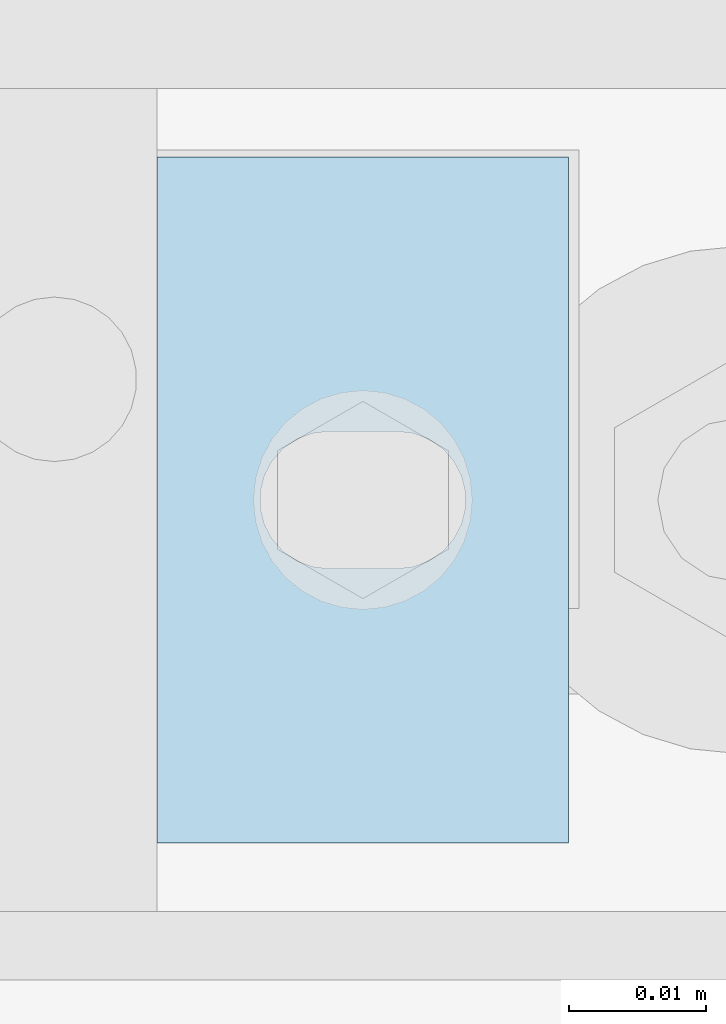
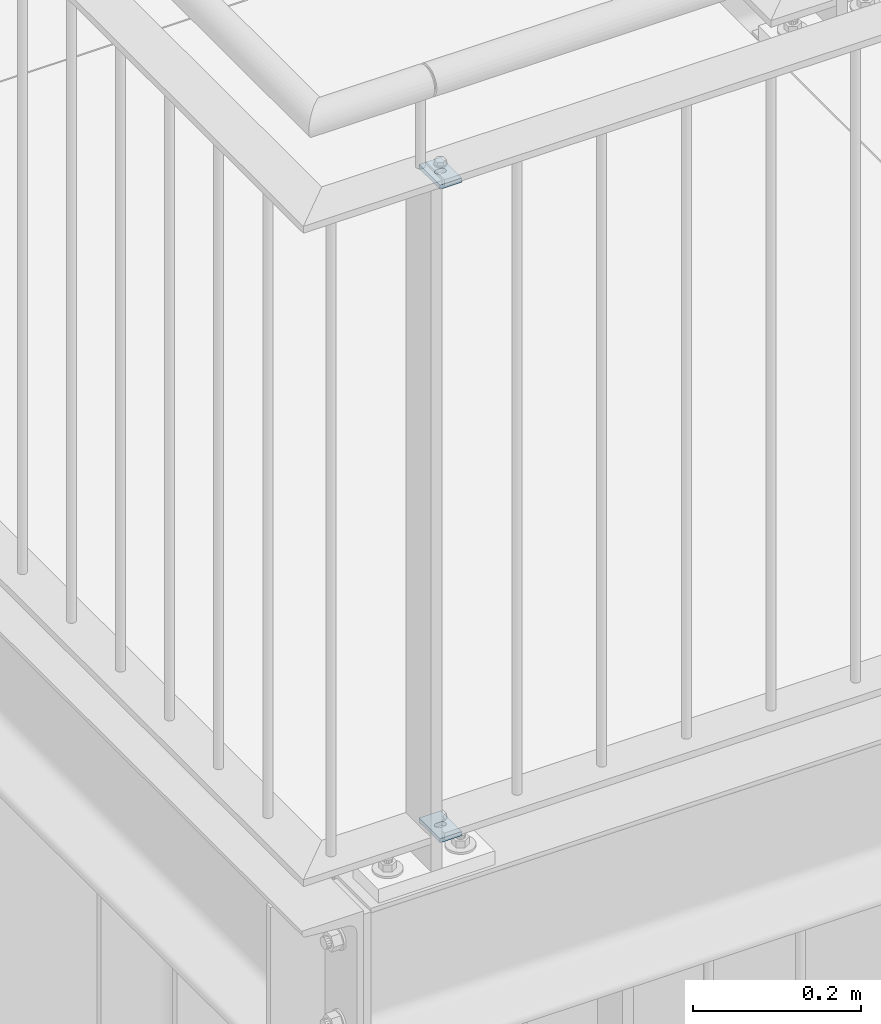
# One storey, part 218 of 821: 2 plates, 2 openings.
"""IFC2X3 building model written with IfcOpenShell, lengths in millimetres."""

from ifc_helpers import new_model, entity, si_unit, converted_unit, point, frame, frame_2d, origin, origin_with_axes, place, context, project, spatial, polyline, circle_curve, line_curve, trimmed, segment, composite_curve, outline, extrude, material, layer, layer_set, element, save


model = new_model("IFC2X3")

# Units and contexts
model_context = context("Model", 3, precision=1e-09, world=origin_with_axes())
ifc_project = project(units=[si_unit("LENGTHUNIT", "METRE", prefix="MILLI"), si_unit("AREAUNIT", "SQUARE_METRE"), si_unit("VOLUMEUNIT", "CUBIC_METRE"), converted_unit("PLANEANGLEUNIT", "DEGREE", entity("IfcPlaneAngleMeasure", 0.01745329), si_unit("PLANEANGLEUNIT", "RADIAN"), dimensions=[0, 0, 0, 0, 0, 0, 0])], contexts=[model_context])

# Site, building, storey
site_placement = place(None, origin_with_axes())
site = spatial("IfcSite", under=ifc_project, at=site_placement, Name="Cnopf'sche Kinderklinik", CompositionType="ELEMENT")
building_placement = place(site_placement, origin_with_axes())
building = spatial("IfcBuilding", under=site, at=building_placement, Name="Struktur 1", CompositionType="ELEMENT")
storey_placement = place(building_placement, origin_with_axes())
storey = spatial("IfcBuildingStorey", under=building, at=storey_placement, Name="Default Storey", CompositionType="ELEMENT", Elevation=0.0)

# Plate, opening
ifc_material = material(Name="S235JR")
ifc_layer = layer(ifc_material, 6.0)
ifc_layer_set = layer_set([ifc_layer], Name="S235JR")
plate_1_placement = place(None, frame((3447.288520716, 4526.736971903, 4849.8), z_axis=(0.0, 0.0, 1.0), x_axis=(1.0, 0.0, 0.0)))
plate_1 = element("IfcPlate", 1, at=plate_1_placement, inside=storey, material=ifc_layer_set, Name="-", ObjectType="-", context=model_context, shape_type="SweptSolid", body=[
    extrude(outline(polyline([(-15.0, -25.0), (15.0, -25.0), (15.0, 25.0), (-15.0, 25.0), (-15.0, -25.0)])), origin_with_axes(), (0.0, 0.0, 1.0), 6.0),
])
opening_1_placement = place(plate_1_placement, frame((-1e-09, 0.0, -0.5), z_axis=(0.0, 0.0, 1.0), x_axis=(1.0, 0.0, 0.0)))
element("IfcOpeningElement", 2, at=opening_1_placement, cuts=plate_1, ObjectType="Opening", context=model_context, shape_type="SweptSolid", body=[
    extrude(outline(composite_curve([segment(trimmed(line_curve((-2.5, -5.001), (1.0, 0.0), 5.0), [point((-2.5, -5.001))], [point((2.5, -5.001))], True, "CARTESIAN"), True, "CONTINUOUS"), segment(trimmed(circle_curve(frame_2d((2.5, 0.0), x_axis=(1.0, 0.0)), 5.001), [point((2.5, -5.001))], [point((2.5, 5.001))], True, "CARTESIAN"), True, "CONTINUOUS"), segment(trimmed(line_curve((2.5, 5.001), (-1.0, 0.0), 5.0), [point((2.5, 5.001))], [point((-2.5, 5.001))], True, "CARTESIAN"), True, "CONTINUOUS"), segment(trimmed(circle_curve(frame_2d((-2.5, 0.0), x_axis=(1.0, 0.0)), 5.001), [point((-2.5, 5.001))], [point((-2.5, -5.001))], True, "CARTESIAN"), True, "CONTINUOUS")], self_intersect=False)), origin(), (0.0, 0.0, 1.0), 7.0),
])

plate_2_placement = place(None, frame((3447.288520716, 4526.736971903, 3901.0), z_axis=(0.0, 0.0, 1.0), x_axis=(1.0, 0.0, 0.0)))
plate_2 = element("IfcPlate", 3, at=plate_2_placement, inside=storey, material=ifc_layer_set, Name="-", ObjectType="-", context=model_context, shape_type="SweptSolid", body=[
    extrude(outline(polyline([(-15.0, -25.0), (15.0, -25.0), (15.0, 25.0), (-15.0, 25.0), (-15.0, -25.0)])), origin_with_axes(), (0.0, 0.0, 1.0), 6.0),
])
opening_2_placement = place(plate_2_placement, frame((-1e-09, 0.0, -0.5), z_axis=(0.0, 0.0, 1.0), x_axis=(1.0, 0.0, 0.0)))
element("IfcOpeningElement", 4, at=opening_2_placement, cuts=plate_2, ObjectType="Opening", context=model_context, shape_type="SweptSolid", body=[
    extrude(outline(composite_curve([segment(trimmed(line_curve((-2.5, -5.001), (1.0, 0.0), 5.0), [point((-2.5, -5.001))], [point((2.5, -5.001))], True, "CARTESIAN"), True, "CONTINUOUS"), segment(trimmed(circle_curve(frame_2d((2.5, 0.0), x_axis=(1.0, 0.0)), 5.001), [point((2.5, -5.001))], [point((2.5, 5.001))], True, "CARTESIAN"), True, "CONTINUOUS"), segment(trimmed(line_curve((2.5, 5.001), (-1.0, 0.0), 5.0), [point((2.5, 5.001))], [point((-2.5, 5.001))], True, "CARTESIAN"), True, "CONTINUOUS"), segment(trimmed(circle_curve(frame_2d((-2.5, 0.0), x_axis=(1.0, 0.0)), 5.001), [point((-2.5, 5.001))], [point((-2.5, -5.001))], True, "CARTESIAN"), True, "CONTINUOUS")], self_intersect=False)), origin(), (0.0, 0.0, 1.0), 7.0),
])

save(model, "model.ifc")
